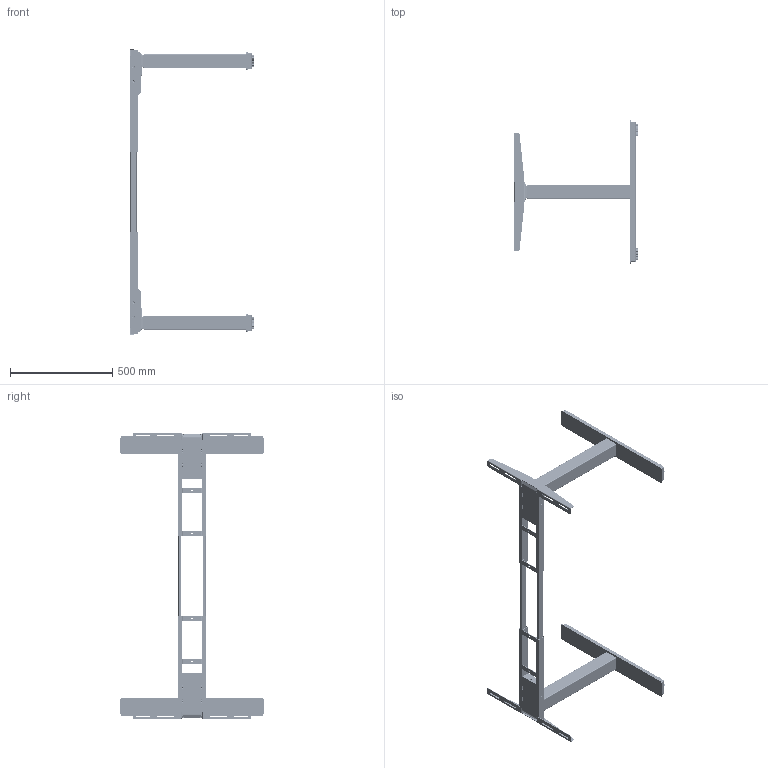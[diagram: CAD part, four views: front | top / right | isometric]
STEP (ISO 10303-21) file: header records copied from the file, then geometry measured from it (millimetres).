
FILE_DESCRIPTION((''),'2;1');
FILE_NAME('DUAL-MOTOR_FRAME_WITH_HOLE_TS_3_ASM','2024-06-27T17:27:53',('worker0074'),('捷昌驱动'),'CREO PARAMETRIC BY PTC INC, 2018100','CREO PARAMETRIC BY PTC INC, 2018100','');
FILE_SCHEMA(('CONFIG_CONTROL_DESIGN'));
Products named in the file (26): X00_21_1_1; MC35TS-2542_1_1_1; MC35TS-2536_1_1_1; MS36DR-3100_2_1_1_1; MS36DS-0248_1_1_1_1; MS36DS-1242_1_1_1_1; MC35TS-4138_ASM_1_ASM_1_ASM_1_A_ASM; MC35TS-4798_1_1_1_1; MC35TS-4799_1_1_1_1; MCSP-0688_1_1_1_1; MC35TS-2540_2_1_1_1; MS36DS-1130_1_1_1_1; MS36DS-0232_1_1_1_1; MS36DS-0125_1_1_1_1; MS36DS-0247_ASM_1_ASM_1_ASM_1_A_ASM; MS36DS-1277_ASM_1_ASM_1_ASM_1_A_ASM; 153153_ASM_1_ASM_1_ASM; MC35TS-2959_2_1_1; MC35TS-0380_3_1_1_1; MC35TS-0380_3_2_1_1; MC35TS-0380_3_ASM_1_ASM_1_ASM; 7000001_ASM_21_ASM_1_ASM_1_ASM; EZ-TT_ASM_21_ASM_1_ASM_1_ASM; TT1_ASM_1_ASM_1_ASM; YQ2024-D010-EZ-TT_ASM_1_ASM; DUAL-MOTOR_FRAME_WITH_HOLE_TS_3_ASM
Assembly tree (32 placements, depth 8):
  DUAL-MOTOR_FRAME_WITH_HOLE_TS_3_ASM
    YQ2024-D010-EZ-TT_ASM_1_ASM
      TT1_ASM_1_ASM_1_ASM
        EZ-TT_ASM_21_ASM_1_ASM_1_ASM
          X00_21_1_1  x2
          MC35TS-2542_1_1_1  x2
          MC35TS-2536_1_1_1  x2
          153153_ASM_1_ASM_1_ASM  x2
            MS36DS-1277_ASM_1_ASM_1_ASM_1_A_ASM
              MC35TS-4138_ASM_1_ASM_1_ASM_1_A_ASM
                MS36DR-3100_2_1_1_1
                MS36DS-0248_1_1_1_1
                MS36DS-1242_1_1_1_1
              MC35TS-4798_1_1_1_1
              MC35TS-4799_1_1_1_1
              MCSP-0688_1_1_1_1  x2
              MC35TS-2540_2_1_1_1
              MS36DS-1130_1_1_1_1
              MS36DS-0247_ASM_1_ASM_1_ASM_1_A_ASM
                MS36DS-0232_1_1_1_1
                MS36DS-0125_1_1_1_1
          7000001_ASM_21_ASM_1_ASM_1_ASM  x2
            MC35TS-2959_2_1_1
            MC35TS-0380_3_ASM_1_ASM_1_ASM
              MC35TS-0380_3_1_1_1
              MC35TS-0380_3_2_1_1
Bounding box: 607 x 700 x 1400 mm (x, y, z)
Volume: 3240364.6 mm3; surface area: 3354944.7 mm2
Topology: 34 solids, 126 shells, 6674 faces, 22488 edges, 16030 vertices
Faces by surface type: cylinder 4244, plane 2026, torus 144, bspline 120, cone 120, sphere 20
Entity records: 98088 total; most frequent: CARTESIAN_POINT 25323, DIRECTION 15596, ORIENTED_EDGE 15456, EDGE_CURVE 7829, AXIS2_PLACEMENT_3D 5836, VERTEX_POINT 5489, VECTOR 3924, LINE 3924
